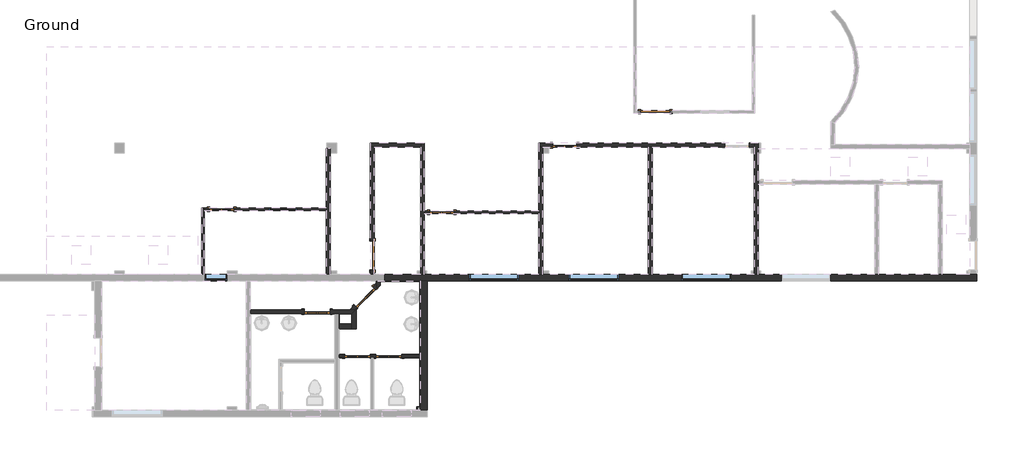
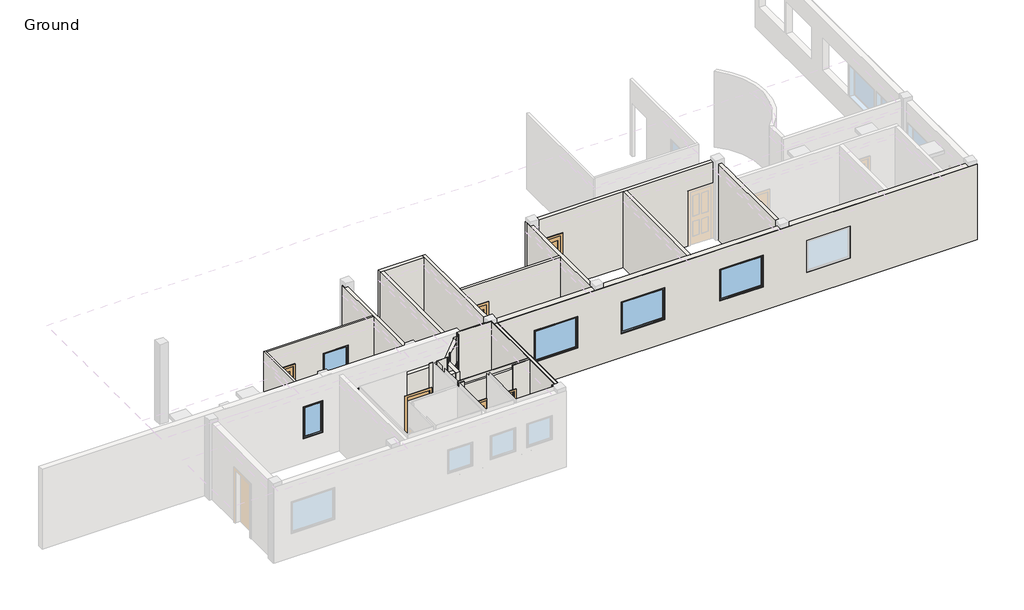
# One storey, part 2 of 4: 34 walls, 9 doors, 5 windows.
"""IFC4 building model written with IfcOpenShell, lengths in millimetres."""

from ifc_helpers import new_model, si_unit, frame, origin, origin_with_axes, place, context, project, spatial, polyline, outline, extrude, faceted_brep, transform, mapped, element, save
from components import door_43f271b1, door_e28fd1ca, door_ea126e43, door_dc1c1a0d, door_456b505c, door_238e255b, door_9f33a548, door_317ed896, window_b7da1b20, window_74e4fc61, window_a0bf6c86

model = new_model("IFC4")

# Units and contexts
model_context = context("Model", 3, world=origin())
ifc_project = project(units=[si_unit("LENGTHUNIT", "METRE", prefix="MILLI")], contexts=[model_context])

# Site, building, storey
site = spatial("IfcSite", under=ifc_project)
building = spatial("IfcBuilding", under=site)
storey = spatial("IfcBuildingStorey", under=building, Name="Ground", Elevation=0.0)

# Doors
placement = place(None, origin())
door_shape = door_43f271b1(model_context)
element("IfcDoor", 1, ObjectType="Single-Flush : 36\" x 80\" - D1", at=placement, inside=storey, context=model_context, shape_type="MappedRepresentation", body=[
    mapped(door_shape, transform((-25082.102824, 9569.42279, 0.0), x_axis=(0.0, -1.0, 0.0), y_axis=(1.0, 0.0, 0.0), z_axis=(0.0, 0.0, 1.0))),
])
door_2_shape = door_e28fd1ca(model_context)
element("IfcDoor", 2, ObjectType="Single-Flush : 36\" x 80\" - D1", at=placement, inside=storey, context=model_context, shape_type="MappedRepresentation", body=[
    mapped(door_2_shape, transform((-16141.302824, 14111.26029, 0.0), x_axis=(-0.9999999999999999, 0.0, 0.0), y_axis=(0.0, -0.9999999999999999, 0.0), z_axis=(0.0, 0.0, 1.0))),
])
door_3_shape = door_ea126e43(model_context)
element("IfcDoor", 3, ObjectType="Single-Glass 3 : 30\" x 80\" - D3", at=placement, inside=storey, context=model_context, shape_type="MappedRepresentation", body=[
    mapped(door_3_shape, transform((-22891.352824, 10934.67279, 0.0), x_axis=(-1.0, 0.0, 0.0), y_axis=(0.0, -1.0, 0.0), z_axis=(0.0, 0.0, 1.0))),
])
element("IfcDoor", 4, ObjectType="Single-Glass 3 : 30\" x 80\" - D3", at=placement, inside=storey, context=model_context, shape_type="MappedRepresentation", body=[
    mapped(door_3_shape, transform((-29843.015324, 11026.74779, 0.0), x_axis=(-1.0, 0.0, 0.0), y_axis=(0.0, -1.0, 0.0), z_axis=(0.0, 0.0, 1.0))),
])
door_4_shape = door_dc1c1a0d(model_context)
element("IfcDoor", 5, ObjectType="Single-Glass 3 : 30\" x 80\" - D3", at=placement, inside=storey, context=model_context, shape_type="MappedRepresentation", body=[
    mapped(door_4_shape, transform((-19005.152824, 13055.57279, 0.0), x_axis=(-1.0, 0.0, 0.0), y_axis=(0.0, -1.0, 0.0), z_axis=(0.0, 0.0, 1.0))),
])
door_5_shape = door_456b505c(model_context)
element("IfcDoor", 6, ObjectType="Single-Glass 3 : 32\" x 80\" - D2", at=placement, inside=storey, context=model_context, shape_type="MappedRepresentation", body=[
    mapped(door_5_shape, transform((-25552.002824, 6378.54779, 0.0), x_axis=(1.0, 0.0, 0.0), y_axis=(0.0, 1.0, 0.0), z_axis=(0.0, 0.0, 1.0))),
])
door_6_shape = door_238e255b(model_context)
element("IfcDoor", 7, ObjectType="Single-Glass 3 : 32\" x 80\" - D2", at=placement, inside=storey, context=model_context, shape_type="MappedRepresentation", body=[
    mapped(door_6_shape, transform((-25316.8739196, 8245.6266944, 0.0), x_axis=(-0.707106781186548, -0.7071067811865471, 0.0), y_axis=(0.7071067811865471, -0.707106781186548, 0.0), z_axis=(0.0, 0.0, 1.0))),
])
door_7_shape = door_9f33a548(model_context)
element("IfcDoor", 8, ObjectType="Single-Glass 3 : 32\" x 80\" - D2", at=placement, inside=storey, context=model_context, shape_type="MappedRepresentation", body=[
    mapped(door_7_shape, transform((-26822.002824, 7788.24779, 0.0), x_axis=(1.0, 0.0, 0.0), y_axis=(0.0, 1.0, 0.0), z_axis=(0.0, 0.0, 1.0))),
])
door_8_shape = door_317ed896(model_context)
element("IfcDoor", 9, ObjectType="Single-Glass 3 : 32\" x 80\" - D2", at=placement, inside=storey, context=model_context, shape_type="MappedRepresentation", body=[
    mapped(door_8_shape, transform((-24561.402824, 6378.54779, 0.0), x_axis=(-1.0, 0.0, 0.0), y_axis=(0.0, -1.0, 0.0), z_axis=(0.0, 0.0, 1.0))),
])

# Walls
element("IfcWall", 10, ObjectType="0.5\" wall tiles-4\" x 6\"", at=placement, inside=storey, context=model_context, shape_type="SweptSolid", body=[
    extrude(outline(polyline([(-26415.602824, 7724.74779), (-26275.902824, 7724.74779), (-26275.902824, 7712.04779), (-26415.602824, 7712.04779), (-26415.602824, 7724.74779)])), origin_with_axes(), (0.0, 0.0, 1.0), 3048.0),
])
element("IfcWall", 11, ObjectType="0.5\" wall tiles-4\" x 6\"", at=placement, inside=storey, context=model_context, shape_type="Brep", body=[
    faceted_brep([(-25560.375674, 7914.5674429, 0.0), (-25586.4560212, 7888.4870957, 0.0), (-25586.4560212, 7888.4870957, 2743.2), (-25586.4560212, 7888.4870957, 3048.0), (-25560.375674, 7914.5674429, 3048.0), (-25551.3954179, 7905.5871868, 0.0), (-25551.3954179, 7905.5871868, 3048.0), (-25586.4560212, 7870.5265835, 3048.0), (-25586.4560212, 7870.5265835, 0.0)], [[[0, 1, 2, 3, 4]], [[5, 6, 7, 8]], [[1, 0, 5, 8]], [[4, 3, 7, 6]], [[0, 4, 6, 5]], [[3, 2, 1, 8, 7]]]),
])
element("IfcWall", 12, ObjectType="0.5\" wall tiles-4\" x 6\"", at=placement, inside=storey, context=model_context, shape_type="Brep", body=[
    faceted_brep([(-25750.1953269, 7724.74779, 0.0), (-26136.202824, 7724.74779, 0.0), (-26136.202824, 7724.74779, 3048.0), (-25750.1953269, 7724.74779, 3048.0), (-25762.8953269, 7712.04779, 0.0), (-25762.8953269, 7712.04779, 3048.0), (-26123.502824, 7712.04779, 3048.0), (-26136.202824, 7712.04779, 3048.0), (-26136.202824, 7712.04779, 0.0), (-26123.502824, 7712.04779, 0.0)], [[[0, 1, 2, 3]], [[4, 5, 6, 7, 8, 9]], [[1, 0, 4, 9, 8]], [[3, 2, 7, 6, 5]], [[2, 1, 8, 7]], [[0, 3, 5, 4]]]),
])
element("IfcWall", 13, ObjectType="0.5\" wall tiles-4\" x 6\"", at=placement, inside=storey, context=model_context, shape_type="Brep", body=[
    faceted_brep([(-26136.202824, 7712.04779, 0.0), (-26136.202824, 7394.54779, 0.0), (-26136.202824, 7394.54779, 2743.2), (-26136.202824, 7394.54779, 3048.0), (-26136.202824, 7712.04779, 3048.0), (-26123.502824, 7712.04779, 0.0), (-26123.502824, 7712.04779, 3048.0), (-26123.502824, 7394.54779, 3048.0), (-26123.502824, 7394.54779, 0.0)], [[[0, 1, 2, 3, 4]], [[5, 6, 7, 8]], [[1, 0, 5, 8]], [[4, 3, 7, 6]], [[0, 4, 6, 5]], [[3, 2, 1, 8, 7]]]),
])
element("IfcWall", 14, ObjectType="0.5\" wall tiles-4\" x 6\"", at=placement, inside=storey, context=model_context, shape_type="Brep", body=[
    faceted_brep([(-25145.7268406, 6418.23529, 2032.0), (-25145.7268406, 6418.23529, 0.0), (-24967.6788075, 6418.23529, 0.0), (-24967.6788075, 6418.23529, 2032.0), (-24154.8788075, 6418.23529, 2032.0), (-24154.8788075, 6418.23529, 0.0), (-23566.040324, 6418.23529, 0.0), (-23566.040324, 6418.23529, 2895.6), (-23566.040324, 6418.23529, 3048.0), (-26136.202824, 6418.23529, 3048.0), (-26136.202824, 6418.23529, 2895.6), (-26136.202824, 6418.23529, 0.0), (-25958.5268406, 6418.23529, 0.0), (-25958.5268406, 6418.23529, 2032.0), (-24967.6788075, 6430.93529, 0.0), (-25145.7268406, 6430.93529, 0.0), (-25145.7268406, 6430.93529, 2032.0), (-25958.5268406, 6430.93529, 2032.0), (-25958.5268406, 6430.93529, 0.0), (-26123.502824, 6430.93529, 0.0), (-26136.202824, 6430.93529, 0.0), (-26136.202824, 6430.93529, 3048.0), (-26123.502824, 6430.93529, 3048.0), (-23578.740324, 6430.93529, 3048.0), (-23566.040324, 6430.93529, 3048.0), (-23566.040324, 6430.93529, 0.0), (-23578.740324, 6430.93529, 0.0), (-24154.8788075, 6430.93529, 0.0), (-24154.8788075, 6430.93529, 2032.0), (-24967.6788075, 6430.93529, 2032.0)], [[[0, 1, 2, 3, 4, 5, 6, 7, 8, 9, 10, 11, 12, 13]], [[14, 15, 16, 17, 18, 19, 20, 21, 22, 23, 24, 25, 26, 27, 28, 29]], [[2, 1, 15, 14]], [[27, 26, 25, 6, 5]], [[12, 11, 20, 19, 18]], [[9, 8, 24, 23, 22, 21]], [[11, 10, 9, 21, 20]], [[8, 7, 6, 25, 24]], [[3, 2, 14, 29]], [[4, 3, 29, 28]], [[5, 4, 28, 27]], [[16, 15, 1, 0]], [[17, 16, 0, 13]], [[18, 17, 13, 12]]]),
])
element("IfcWall", 15, ObjectType="0.5\" wall tiles-4\" x 6\"", at=placement, inside=storey, context=model_context, shape_type="Brep", body=[
    faceted_brep([(-25738.8560212, 7736.0870957, 0.0), (-25750.1953269, 7724.74779, 0.0), (-25762.8953269, 7712.04779, 0.0), (-25762.8953269, 7712.04779, 3048.0), (-25750.1953269, 7724.74779, 3048.0), (-25738.8560212, 7736.0870957, 3048.0), (-25738.8560212, 7736.0870957, 2743.2), (-25738.8560212, 7718.1265835, 0.0), (-25738.8560212, 7718.1265835, 3048.0), (-25744.9348146, 7712.04779, 3048.0), (-25744.9348146, 7712.04779, 0.0)], [[[0, 1, 2, 3, 4, 5, 6]], [[7, 8, 9, 10]], [[2, 1, 0, 7, 10]], [[5, 4, 3, 9, 8]], [[3, 2, 10, 9]], [[0, 6, 5, 8, 7]]]),
])
element("IfcWall", 16, ObjectType="0.5\" wall tiles-4\" x 6\"", at=placement, inside=storey, context=model_context, shape_type="Brep", body=[
    faceted_brep([(-23566.040324, 6430.93529, 0.0), (-23566.040324, 8753.44779, 0.0), (-23566.040324, 8753.44779, 3048.0), (-23566.040324, 6430.93529, 3048.0), (-23578.740324, 6430.93529, 0.0), (-23578.740324, 6430.93529, 3048.0), (-23578.740324, 8740.74779, 3048.0), (-23578.740324, 8753.44779, 3048.0), (-23578.740324, 8753.44779, 0.0), (-23578.740324, 8740.74779, 0.0)], [[[0, 1, 2, 3]], [[4, 5, 6, 7, 8, 9]], [[1, 0, 4, 9, 8]], [[3, 2, 7, 6, 5]], [[2, 1, 8, 7]], [[0, 3, 5, 4]]]),
])
element("IfcWall", 17, ObjectType="0.5\" wall tiles-4\" x 6\"", at=placement, inside=storey, context=model_context, shape_type="Brep", body=[
    faceted_brep([(-23578.740324, 8753.44779, 0.0), (-24836.040324, 8753.44779, 0.0), (-24836.040324, 8753.44779, 3048.0), (-23578.740324, 8753.44779, 3048.0), (-23578.740324, 8740.74779, 0.0), (-23578.740324, 8740.74779, 3048.0), (-24823.340324, 8740.74779, 3048.0), (-24836.040324, 8740.74779, 3048.0), (-24836.040324, 8740.74779, 0.0), (-24823.340324, 8740.74779, 0.0)], [[[0, 1, 2, 3]], [[4, 5, 6, 7, 8, 9]], [[1, 0, 4, 9, 8]], [[3, 2, 7, 6, 5]], [[2, 1, 8, 7]], [[0, 3, 5, 4]]]),
])
element("IfcWall", 18, ObjectType="0.5\" wall tiles-4\" x 6\"", at=placement, inside=storey, context=model_context, shape_type="Brep", body=[
    faceted_brep([(-24836.040324, 8740.74779, 0.0), (-24836.040324, 8638.9027929, 0.0), (-24836.040324, 8620.9422806, 0.0), (-24836.040324, 8620.9422806, 3048.0), (-24836.040324, 8638.9027929, 3048.0), (-24836.040324, 8740.74779, 3048.0), (-24823.340324, 8740.74779, 0.0), (-24823.340324, 8740.74779, 3048.0), (-24823.340324, 8633.6422806, 3048.0), (-24823.340324, 8633.6422806, 0.0)], [[[0, 1, 2, 3, 4, 5]], [[6, 7, 8, 9]], [[2, 1, 0, 6, 9]], [[5, 4, 3, 8, 7]], [[3, 2, 9, 8]], [[0, 5, 7, 6]]]),
])
element("IfcWall", 19, ObjectType="0.5\" wall tiles-4\" x 6\"", at=placement, inside=storey, context=model_context, shape_type="SweptSolid", body=[
    extrude(outline(polyline([(-24984.7299377, 8490.2131792), (-24836.040324, 8638.9027929), (-24836.040324, 8620.9422806), (-24975.7496815, 8481.2329231), (-24984.7299377, 8490.2131792)])), origin_with_axes(), (0.0, 0.0, 1.0), 3048.0),
])
element("IfcWall", 20, ObjectType="0.5\" wall tiles-4\" x 6\"", at=placement, inside=storey, context=model_context, shape_type="Brep", body=[
    faceted_brep([(-25958.5268406, 6338.86029, 0.0), (-26136.202824, 6338.86029, 0.0), (-26136.202824, 6338.86029, 3048.0), (-25958.5268406, 6338.86029, 3048.0), (-25958.5268406, 6326.16029, 0.0), (-25958.5268406, 6326.16029, 3048.0), (-26123.502824, 6326.16029, 3048.0), (-26136.202824, 6326.16029, 3048.0), (-26136.202824, 6326.16029, 0.0), (-26123.502824, 6326.16029, 0.0)], [[[0, 1, 2, 3]], [[4, 5, 6, 7, 8, 9]], [[1, 0, 4, 9, 8]], [[3, 2, 7, 6, 5]], [[0, 3, 5, 4]], [[2, 1, 8, 7]]]),
])
element("IfcWall", 21, ObjectType="0.5\" wall tiles-4\" x 6\"", at=placement, inside=storey, context=model_context, shape_type="Brep", body=[
    faceted_brep([(-23664.465324, 4687.86029, 0.0), (-23664.465324, 4773.58529, 0.0), (-23664.465324, 4786.28529, 0.0), (-23664.465324, 4786.28529, 3048.0), (-23664.465324, 4773.58529, 3048.0), (-23664.465324, 4687.86029, 3048.0), (-23677.165324, 4687.86029, 0.0), (-23677.165324, 4687.86029, 3048.0), (-23677.165324, 4786.28529, 3048.0), (-23677.165324, 4786.28529, 0.0)], [[[0, 1, 2, 3, 4, 5]], [[6, 7, 8, 9]], [[2, 1, 0, 6, 9]], [[5, 4, 3, 8, 7]], [[3, 2, 9, 8]], [[0, 5, 7, 6]]]),
])
element("IfcWall", 22, ObjectType="0.5\" wall tiles-4\" x 6\"", at=placement, inside=storey, context=model_context, shape_type="Brep", body=[
    faceted_brep([(-23664.465324, 4773.58529, 0.0), (-23566.040324, 4773.58529, 0.0), (-23566.040324, 4773.58529, 3048.0), (-23664.465324, 4773.58529, 3048.0), (-23664.465324, 4786.28529, 0.0), (-23664.465324, 4786.28529, 3048.0), (-23578.740324, 4786.28529, 3048.0), (-23566.040324, 4786.28529, 3048.0), (-23566.040324, 4786.28529, 0.0), (-23578.740324, 4786.28529, 0.0)], [[[0, 1, 2, 3]], [[4, 5, 6, 7, 8, 9]], [[1, 0, 4, 9, 8]], [[3, 2, 7, 6, 5]], [[2, 1, 8, 7]], [[0, 3, 5, 4]]]),
])
element("IfcWall", 23, ObjectType="0.5\" wall tiles-4\" x 6\"", at=placement, inside=storey, context=model_context, shape_type="Brep", body=[
    faceted_brep([(-23566.040324, 4786.28529, 0.0), (-23566.040324, 6338.86029, 0.0), (-23566.040324, 6338.86029, 3048.0), (-23566.040324, 4786.28529, 3048.0), (-23578.740324, 4786.28529, 0.0), (-23578.740324, 4786.28529, 3048.0), (-23578.740324, 6326.16029, 3048.0), (-23578.740324, 6338.86029, 3048.0), (-23578.740324, 6338.86029, 0.0), (-23578.740324, 6326.16029, 0.0)], [[[0, 1, 2, 3]], [[4, 5, 6, 7, 8, 9]], [[1, 0, 4, 9, 8]], [[3, 2, 7, 6, 5]], [[2, 1, 8, 7]], [[0, 3, 5, 4]]]),
])
element("IfcWall", 24, ObjectType="0.5\" wall tiles-4\" x 6\"", at=placement, inside=storey, context=model_context, shape_type="SweptSolid", body=[
    extrude(outline(polyline([(-24204.3928001, 6338.86029), (-23578.740324, 6338.86029), (-23578.740324, 6326.16029), (-24204.3928001, 6326.16029), (-24204.3928001, 6338.86029)])), origin_with_axes(), (0.0, 0.0, 1.0), 3048.0),
])
element("IfcWall", 25, ObjectType="Generic - 6\"", at=placement, inside=storey, context=model_context, shape_type="Brep", body=[
    faceted_brep([(-25738.8560212, 7736.0870957, 0.0), (-25738.8560212, 7718.1265835, 0.0), (-25738.8560212, 7394.54779, 0.0), (-25738.8560212, 7242.14779, 0.0), (-25738.8560212, 7242.14779, 2743.2), (-25738.8560212, 7394.54779, 2743.2), (-25738.8560212, 7736.0870957, 2743.2), (-25586.4560212, 7888.4870957, 0.0), (-25586.4560212, 7888.4870957, 2743.2), (-25586.4560212, 7242.14779, 2743.2), (-25586.4560212, 7242.14779, 0.0), (-25586.4560212, 7870.5265835, 0.0), (-25623.1953269, 7851.74779, 0.0)], [[[0, 1, 2, 3, 4, 5, 6]], [[7, 8, 9, 10, 11]], [[3, 2, 1, 0, 12, 7, 11, 10]], [[6, 5, 4, 9, 8]], [[4, 3, 10, 9]], [[0, 6, 8, 7, 12]]]),
])
element("IfcWall", 26, ObjectType="Generic - 6\"", at=placement, inside=storey, context=model_context, shape_type="Brep", body=[
    faceted_brep([(-25738.8560212, 7394.54779, 0.0), (-26123.502824, 7394.54779, 0.0), (-26136.202824, 7394.54779, 0.0), (-26136.202824, 7394.54779, 2743.2), (-25738.8560212, 7394.54779, 2743.2), (-25738.8560212, 7242.14779, 0.0), (-25738.8560212, 7242.14779, 2743.2), (-26136.202824, 7242.14779, 2743.2), (-26136.202824, 7242.14779, 0.0), (-26123.502824, 7242.14779, 0.0)], [[[0, 1, 2, 3, 4]], [[5, 6, 7, 8, 9]], [[2, 1, 0, 5, 9, 8]], [[4, 3, 7, 6]], [[3, 2, 8, 7]], [[0, 4, 6, 5]]]),
])
element("IfcWall", 27, ObjectType="Generic - 8\" Masonry existing", at=placement, inside=storey, context=model_context, shape_type="Brep", body=[
    faceted_brep([(-24701.102824, 8753.44779, 0.0), (-23566.040324, 8753.44779, 0.0), (-23346.965324, 8753.44779, 0.0), (-5986.065324, 8753.44779, 0.0), (-5986.065324, 8753.44779, 2895.6), (-5998.765324, 8753.44779, 2895.6), (-23346.965324, 8753.44779, 2895.6), (-23566.040324, 8753.44779, 2895.6), (-24701.102824, 8753.44779, 2895.6), (-22021.402824, 8753.44779, 2133.6), (-20446.602824, 8753.44779, 2133.6), (-20446.602824, 8753.44779, 914.4), (-22021.402824, 8753.44779, 914.4), (-18871.802824, 8753.44779, 2133.6), (-17297.002824, 8753.44779, 2133.6), (-17297.002824, 8753.44779, 914.4), (-18871.802824, 8753.44779, 914.4), (-12166.202824, 8753.44779, 2133.6), (-10591.402824, 8753.44779, 2133.6), (-10591.402824, 8753.44779, 914.4), (-12166.202824, 8753.44779, 914.4), (-15315.802824, 8753.44779, 2133.6), (-13741.002824, 8753.44779, 2133.6), (-13741.002824, 8753.44779, 914.4), (-15315.802824, 8753.44779, 914.4), (-24701.102824, 8972.52279, 0.0), (-24701.102824, 8972.52279, 2895.6), (-23556.515324, 8972.52279, 2895.6), (-23432.690324, 8972.52279, 2895.6), (-19827.477824, 8972.52279, 2895.6), (-19703.652824, 8972.52279, 2895.6), (-16355.615324, 8972.52279, 2895.6), (-16231.790324, 8972.52279, 2895.6), (-13015.515324, 8972.52279, 2895.6), (-12891.690324, 8972.52279, 2895.6), (-9207.102824, 8972.52279, 2895.6), (-9083.277824, 8972.52279, 2895.6), (-7195.740324, 8972.52279, 2895.6), (-7071.915324, 8972.52279, 2895.6), (-6205.140324, 8972.52279, 2895.6), (-5998.765324, 8972.52279, 2895.6), (-5986.065324, 8972.52279, 2895.6), (-5986.065324, 8972.52279, 0.0), (-6205.140324, 8972.52279, 0.0), (-7071.915324, 8972.52279, 0.0), (-7195.740324, 8972.52279, 0.0), (-9083.277824, 8972.52279, 0.0), (-9207.102824, 8972.52279, 0.0), (-12891.690324, 8972.52279, 0.0), (-13015.515324, 8972.52279, 0.0), (-16231.790324, 8972.52279, 0.0), (-16355.615324, 8972.52279, 0.0), (-19703.652824, 8972.52279, 0.0), (-19827.477824, 8972.52279, 0.0), (-23432.690324, 8972.52279, 0.0), (-23556.515324, 8972.52279, 0.0), (-22021.402824, 8972.52279, 2133.6), (-22021.402824, 8972.52279, 914.4), (-20446.602824, 8972.52279, 914.4), (-20446.602824, 8972.52279, 2133.6), (-18871.802824, 8972.52279, 2133.6), (-18871.802824, 8972.52279, 914.4), (-17297.002824, 8972.52279, 914.4), (-17297.002824, 8972.52279, 2133.6), (-12166.202824, 8972.52279, 2133.6), (-12166.202824, 8972.52279, 914.4), (-10591.402824, 8972.52279, 914.4), (-10591.402824, 8972.52279, 2133.6), (-15315.802824, 8972.52279, 2133.6), (-15315.802824, 8972.52279, 914.4), (-13741.002824, 8972.52279, 914.4), (-13741.002824, 8972.52279, 2133.6), (-24701.102824, 8766.14779, 2895.6), (-5986.065324, 8766.14779, 2895.6), (-5998.765324, 8766.14779, 2895.6), (-23359.665324, 8766.14779, 2895.6)], [[[0, 1, 2, 3, 4, 5, 6, 7, 8], [9, 10, 11, 12], [13, 14, 15, 16], [17, 18, 19, 20], [21, 22, 23, 24]], [[25, 26, 27, 28, 29, 30, 31, 32, 33, 34, 35, 36, 37, 38, 39, 40, 41, 42, 43, 44, 45, 46, 47, 48, 49, 50, 51, 52, 53, 54, 55], [56, 57, 58, 59], [60, 61, 62, 63], [64, 65, 66, 67], [68, 69, 70, 71]], [[3, 2, 1, 0, 25, 55, 54, 53, 52, 51, 50, 49, 48, 47, 46, 45, 44, 43, 42]], [[0, 8, 72, 26, 25]], [[4, 3, 42, 41, 73]], [[8, 7, 6, 5, 74, 75, 72]], [[73, 41, 40, 74]], [[5, 4, 73, 74]], [[74, 40, 39, 38, 37, 36, 35, 34, 33, 32, 31, 30, 29, 28, 27, 26, 72, 75]], [[57, 56, 9, 12]], [[58, 57, 12, 11]], [[59, 58, 11, 10]], [[56, 59, 10, 9]], [[61, 60, 13, 16]], [[62, 61, 16, 15]], [[63, 62, 15, 14]], [[60, 63, 14, 13]], [[65, 64, 17, 20]], [[66, 65, 20, 19]], [[67, 66, 19, 18]], [[64, 67, 18, 17]], [[69, 68, 21, 24]], [[70, 69, 24, 23]], [[71, 70, 23, 22]], [[68, 71, 22, 21]]]),
])
element("IfcWall", 28, ObjectType="Generic - 8\" Masonry existing", at=placement, inside=storey, context=model_context, shape_type="Brep", body=[
    faceted_brep([(-23566.040324, 8753.44779, 0.0), (-23566.040324, 6418.23529, 0.0), (-23566.040324, 6338.86029, 0.0), (-23566.040324, 4675.16029, 0.0), (-23566.040324, 4675.16029, 2895.6), (-23566.040324, 6338.86029, 2895.6), (-23566.040324, 6418.23529, 2895.6), (-23566.040324, 8753.44779, 2895.6), (-23346.965324, 8753.44779, 0.0), (-23346.965324, 8753.44779, 2895.6), (-23346.965324, 4675.16029, 2895.6), (-23346.965324, 4675.16029, 0.0), (-23359.665324, 4675.16029, 2895.6), (-23359.665324, 8753.44779, 2895.6)], [[[0, 1, 2, 3, 4, 5, 6, 7]], [[8, 9, 10, 11]], [[3, 2, 1, 0, 8, 11]], [[4, 3, 11, 10, 12]], [[0, 7, 13, 9, 8]], [[12, 10, 9, 13]], [[7, 6, 5, 4, 12, 13]]]),
])
element("IfcWall", 29, ObjectType="Interior - 3 1/8\" Partition (1-hr)", at=placement, inside=storey, context=model_context, shape_type="Brep", body=[
    faceted_brep([(-30476.427824, 11066.43529, 0.0), (-30476.427824, 8972.52279, 0.0), (-30476.427824, 8972.52279, 2895.6), (-30476.427824, 11066.43529, 2895.6), (-30397.052824, 11066.43529, 0.0), (-30397.052824, 11066.43529, 2895.6), (-30397.052824, 10987.06029, 2895.6), (-30397.052824, 8972.52279, 2895.6), (-30397.052824, 8972.52279, 0.0), (-30397.052824, 10987.06029, 0.0)], [[[0, 1, 2, 3]], [[4, 5, 6, 7, 8, 9]], [[1, 0, 4, 9, 8]], [[3, 2, 7, 6, 5]], [[0, 3, 5, 4]], [[2, 1, 8, 7]]]),
])
element("IfcWall", 30, ObjectType="Interior - 3 1/8\" Partition (1-hr)", at=placement, inside=storey, context=model_context, shape_type="SweptSolid", body=[
    extrude(outline(polyline([(0.0, -23432.690324), (0.0, -23272.2288075), (2032.0, -23272.2288075), (2032.0, -22510.2288075), (0.0, -22510.2288075), (0.0, -19827.477824), (2895.6, -19827.477824), (2895.6, -23432.690324), (0.0, -23432.690324)])), frame((0.0, 10894.98529, 0.0), z_axis=(0.0, 1.0, 0.0), x_axis=(0.0, 0.0, 1.0)), (0.0, 0.0, 1.0), 79.375),
])
element("IfcWall", 31, ObjectType="Interior - 3 1/8\" Partition (1-hr)", at=placement, inside=storey, context=model_context, shape_type="SweptSolid", body=[
    extrude(outline(polyline([(0.0, -30397.052824), (0.0, -30223.8913075), (2032.0, -30223.8913075), (2032.0, -29461.8913075), (0.0, -29461.8913075), (0.0, -26533.077824), (2895.6, -26533.077824), (2895.6, -30397.052824), (0.0, -30397.052824)]), holes=[polyline([(2133.6, -28369.815324), (2133.6, -27455.415324), (914.4, -27455.415324), (914.4, -28369.815324), (2133.6, -28369.815324)])]), frame((0.0, 10987.06029, 0.0), z_axis=(0.0, 1.0, 0.0), x_axis=(0.0, 0.0, 1.0)), (0.0, 0.0, 1.0), 79.375),
])
element("IfcWall", 32, ObjectType="Interior - 3 1/8\" Partition (1-hr)", at=placement, inside=storey, context=model_context, shape_type="Brep", body=[
    faceted_brep([(-25145.7268406, 6338.86029, 2032.0), (-25145.7268406, 6338.86029, 0.0), (-25123.377824, 6338.86029, 0.0), (-25044.002824, 6338.86029, 0.0), (-24967.6788075, 6338.86029, 0.0), (-24967.6788075, 6338.86029, 2032.0), (-24154.8788075, 6338.86029, 2032.0), (-24154.8788075, 6338.86029, 0.0), (-23566.040324, 6338.86029, 0.0), (-23566.040324, 6338.86029, 2895.6), (-25044.002824, 6338.86029, 2895.6), (-25123.377824, 6338.86029, 2895.6), (-26136.202824, 6338.86029, 2895.6), (-26136.202824, 6338.86029, 0.0), (-25958.5268406, 6338.86029, 0.0), (-25958.5268406, 6338.86029, 2032.0), (-24967.6788075, 6418.23529, 0.0), (-25145.7268406, 6418.23529, 0.0), (-25145.7268406, 6418.23529, 2032.0), (-25958.5268406, 6418.23529, 2032.0), (-25958.5268406, 6418.23529, 0.0), (-26136.202824, 6418.23529, 0.0), (-26136.202824, 6418.23529, 2895.6), (-23566.040324, 6418.23529, 2895.6), (-23566.040324, 6418.23529, 0.0), (-24154.8788075, 6418.23529, 0.0), (-24154.8788075, 6418.23529, 2032.0), (-24967.6788075, 6418.23529, 2032.0)], [[[0, 1, 2, 3, 4, 5, 6, 7, 8, 9, 10, 11, 12, 13, 14, 15]], [[16, 17, 18, 19, 20, 21, 22, 23, 24, 25, 26, 27]], [[4, 3, 2, 1, 17, 16]], [[25, 24, 8, 7]], [[14, 13, 21, 20]], [[12, 11, 10, 9, 23, 22]], [[9, 8, 24, 23]], [[13, 12, 22, 21]], [[5, 4, 16, 27]], [[6, 5, 27, 26]], [[7, 6, 26, 25]], [[18, 17, 1, 0]], [[19, 18, 0, 15]], [[20, 19, 15, 14]]]),
])
element("IfcWall", 33, ObjectType="Interior - 5 1/2\" Partition (1-hr)", at=placement, inside=storey, context=model_context, shape_type="Brep", body=[
    faceted_brep([(-12891.690324, 8972.52279, 0.0), (-12891.690324, 11818.91029, 0.0), (-12891.690324, 11942.73529, 0.0), (-12891.690324, 13117.48529, 0.0), (-12891.690324, 13117.48529, 2895.6), (-12891.690324, 11942.73529, 2895.6), (-12891.690324, 11818.91029, 2895.6), (-12891.690324, 8972.52279, 2895.6), (-13015.515324, 8972.52279, 0.0), (-13015.515324, 8972.52279, 2895.6), (-13015.515324, 12993.66029, 2895.6), (-13015.515324, 13117.48529, 2895.6), (-13015.515324, 13117.48529, 0.0), (-13015.515324, 12993.66029, 0.0)], [[[0, 1, 2, 3, 4, 5, 6, 7]], [[8, 9, 10, 11, 12, 13]], [[3, 2, 1, 0, 8, 13, 12]], [[7, 6, 5, 4, 11, 10, 9]], [[4, 3, 12, 11]], [[0, 7, 9, 8]]]),
])
element("IfcWall", 34, ObjectType="Interior - 5 1/2\" Partition (1-hr)", at=placement, inside=storey, context=model_context, shape_type="Brep", body=[
    faceted_brep([(-13015.515324, 13117.48529, 0.0), (-13175.9768406, 13117.48529, 0.0), (-13175.9768406, 13117.48529, 2032.0), (-13937.9768406, 13117.48529, 2032.0), (-13937.9768406, 13117.48529, 0.0), (-18624.0288075, 13117.48529, 0.0), (-18624.0288075, 13117.48529, 2032.0), (-19386.0288075, 13117.48529, 2032.0), (-19386.0288075, 13117.48529, 0.0), (-19827.477824, 13117.48529, 0.0), (-19827.477824, 13117.48529, 2895.6), (-13015.515324, 13117.48529, 2895.6), (-13175.9768406, 12993.66029, 2032.0), (-13175.9768406, 12993.66029, 0.0), (-13015.515324, 12993.66029, 0.0), (-13015.515324, 12993.66029, 2895.6), (-16231.790324, 12993.66029, 2895.6), (-16355.615324, 12993.66029, 2895.6), (-19703.652824, 12993.66029, 2895.6), (-19827.477824, 12993.66029, 2895.6), (-19827.477824, 12993.66029, 0.0), (-19703.652824, 12993.66029, 0.0), (-19386.0288075, 12993.66029, 0.0), (-19386.0288075, 12993.66029, 2032.0), (-18624.0288075, 12993.66029, 2032.0), (-18624.0288075, 12993.66029, 0.0), (-16355.615324, 12993.66029, 0.0), (-16231.790324, 12993.66029, 0.0), (-13937.9768406, 12993.66029, 0.0), (-13937.9768406, 12993.66029, 2032.0)], [[[0, 1, 2, 3, 4, 5, 6, 7, 8, 9, 10, 11]], [[12, 13, 14, 15, 16, 17, 18, 19, 20, 21, 22, 23, 24, 25, 26, 27, 28, 29]], [[20, 9, 8, 22, 21]], [[14, 13, 1, 0]], [[28, 27, 26, 25, 5, 4]], [[11, 10, 19, 18, 17, 16, 15]], [[10, 9, 20, 19]], [[0, 11, 15, 14]], [[7, 23, 22, 8]], [[23, 7, 6, 24]], [[24, 6, 5, 25]], [[2, 1, 13, 12]], [[3, 2, 12, 29]], [[4, 3, 29, 28]]]),
])
element("IfcWall", 35, ObjectType="Interior - 5 1/2\" Partition (1-hr)", at=placement, inside=storey, context=model_context, shape_type="SweptSolid", body=[
    extrude(outline(polyline([(-16355.615324, 8972.52279), (-16355.615324, 12993.66029), (-16231.790324, 12993.66029), (-16231.790324, 8972.52279), (-16355.615324, 8972.52279)])), origin_with_axes(), (0.0, 0.0, 1.0), 2895.6),
])
element("IfcWall", 36, ObjectType="Interior - 5 1/2\" Partition (1-hr)", at=placement, inside=storey, context=model_context, shape_type="Brep", body=[
    faceted_brep([(-19703.652824, 8972.52279, 0.0), (-19703.652824, 12993.66029, 0.0), (-19703.652824, 12993.66029, 2895.6), (-19703.652824, 8972.52279, 2895.6), (-19827.477824, 8972.52279, 0.0), (-19827.477824, 8972.52279, 2895.6), (-19827.477824, 10894.98529, 2895.6), (-19827.477824, 10974.36029, 2895.6), (-19827.477824, 12993.66029, 2895.6), (-19827.477824, 12993.66029, 0.0), (-19827.477824, 10974.36029, 0.0), (-19827.477824, 10894.98529, 0.0)], [[[0, 1, 2, 3]], [[4, 5, 6, 7, 8, 9, 10, 11]], [[1, 0, 4, 11, 10, 9]], [[3, 2, 8, 7, 6, 5]], [[2, 1, 9, 8]], [[0, 3, 5, 4]]]),
])
element("IfcWall", 37, ObjectType="Interior - 5 1/2\" Partition (1-hr)", at=placement, inside=storey, context=model_context, shape_type="Brep", body=[
    faceted_brep([(-23556.515324, 13117.48529, 0.0), (-23556.515324, 12993.66029, 0.0), (-23556.515324, 8972.52279, 0.0), (-23556.515324, 8972.52279, 2895.6), (-23556.515324, 12993.66029, 2895.6), (-23556.515324, 13117.48529, 2895.6), (-23432.690324, 13117.48529, 0.0), (-23432.690324, 13117.48529, 2895.6), (-23432.690324, 10974.36029, 2895.6), (-23432.690324, 10894.98529, 2895.6), (-23432.690324, 8972.52279, 2895.6), (-23432.690324, 8972.52279, 0.0), (-23432.690324, 10894.98529, 0.0), (-23432.690324, 10974.36029, 0.0)], [[[0, 1, 2, 3, 4, 5]], [[6, 7, 8, 9, 10, 11, 12, 13]], [[2, 1, 0, 6, 13, 12, 11]], [[5, 4, 3, 10, 9, 8, 7]], [[0, 5, 7, 6]], [[3, 2, 11, 10]]]),
])
element("IfcWall", 38, ObjectType="Interior - 5 1/2\" Partition (1-hr)", at=placement, inside=storey, context=model_context, shape_type="Brep", body=[
    faceted_brep([(-26533.077824, 12947.62279, 0.0), (-26533.077824, 11066.43529, 0.0), (-26533.077824, 10987.06029, 0.0), (-26533.077824, 8972.52279, 0.0), (-26533.077824, 8972.52279, 2895.6), (-26533.077824, 10987.06029, 2895.6), (-26533.077824, 11066.43529, 2895.6), (-26533.077824, 12947.62279, 2895.6), (-26409.252824, 12947.62279, 0.0), (-26409.252824, 12947.62279, 2895.6), (-26409.252824, 8972.52279, 2895.6), (-26409.252824, 8972.52279, 0.0)], [[[0, 1, 2, 3, 4, 5, 6, 7]], [[8, 9, 10, 11]], [[3, 2, 1, 0, 8, 11]], [[7, 6, 5, 4, 10, 9]], [[0, 7, 9, 8]], [[4, 3, 11, 10]]]),
])
element("IfcWall", 39, ObjectType="Interior - 5 1/2\" Partition (1-hr)", at=placement, inside=storey, context=model_context, shape_type="Brep", body=[
    faceted_brep([(-23556.515324, 13117.48529, 0.0), (-25144.015324, 13117.48529, 0.0), (-25144.015324, 13117.48529, 2895.6), (-23556.515324, 13117.48529, 2895.6), (-23556.515324, 12993.66029, 0.0), (-23556.515324, 12993.66029, 2895.6), (-25020.190324, 12993.66029, 2895.6), (-25144.015324, 12993.66029, 2895.6), (-25144.015324, 12993.66029, 0.0), (-25020.190324, 12993.66029, 0.0)], [[[0, 1, 2, 3]], [[4, 5, 6, 7, 8, 9]], [[1, 0, 4, 9, 8]], [[3, 2, 7, 6, 5]], [[2, 1, 8, 7]], [[0, 3, 5, 4]]]),
])
element("IfcWall", 40, ObjectType="Interior - 5 1/2\" Partition (1-hr)", at=placement, inside=storey, context=model_context, shape_type="SweptSolid", body=[
    extrude(outline(polyline([(9112.22279, 2032.0), (9112.22279, 0.0), (8972.52279, 0.0), (8972.52279, 2895.6), (12993.66029, 2895.6), (12993.66029, 0.0), (10026.62279, 0.0), (10026.62279, 2032.0), (9112.22279, 2032.0)])), frame((-25144.015324, 0.0, 0.0), z_axis=(1.0, 0.0, 0.0), x_axis=(0.0, 1.0, 0.0)), (0.0, 0.0, 1.0), 123.825),
])
element("IfcWall", 41, ObjectType="Interior - 5 1/2\" Partition (1-hr)", at=placement, inside=storey, context=model_context, shape_type="Brep", body=[
    faceted_brep([(-24959.865324, 8753.44779, 0.0), (-24959.865324, 8690.1927872, 0.0), (-24959.865324, 8515.0777929, 0.0), (-24959.865324, 8515.0777929, 2895.6), (-24959.865324, 8690.1927872, 2895.6), (-24959.865324, 8753.44779, 2895.6), (-24836.040324, 8753.44779, 0.0), (-24836.040324, 8753.44779, 2895.6), (-24836.040324, 8638.9027929, 2895.6), (-24836.040324, 8638.9027929, 0.0)], [[[0, 1, 2, 3, 4, 5]], [[6, 7, 8, 9]], [[2, 1, 0, 6, 9]], [[5, 4, 3, 8, 7]], [[3, 2, 9, 8]], [[0, 5, 7, 6]]]),
])
element("IfcWall", 42, ObjectType="Interior - 5 1/2\" Partition (1-hr)", at=placement, inside=storey, context=model_context, shape_type="Brep", body=[
    faceted_brep([(-25798.3103212, 7851.74779, 2895.6), (-24959.865324, 8690.1927872, 2895.6), (-24959.865324, 8690.1927872, 0.0), (-25073.1967794, 8576.8613318, 0.0), (-25073.1967794, 8576.8613318, 2032.0), (-25647.9331712, 8002.1249401, 2032.0), (-25647.9331712, 8002.1249401, 0.0), (-25798.3103212, 7851.74779, 0.0), (-24959.865324, 8515.0777929, 2895.6), (-25623.1953269, 7851.74779, 2895.6), (-25623.1953269, 7851.74779, 0.0), (-25586.4560212, 7888.4870957, 0.0), (-25560.375674, 7914.5674429, 0.0), (-25560.375674, 7914.5674429, 2032.0), (-24985.6392823, 8489.3038346, 2032.0), (-24985.6392823, 8489.3038346, 0.0), (-24959.865324, 8515.0777929, 0.0)], [[[0, 1, 2, 3, 4, 5, 6, 7]], [[8, 9, 10, 11, 12, 13, 14, 15, 16]], [[2, 16, 15, 3]], [[10, 7, 6, 12, 11]], [[1, 0, 9, 8]], [[2, 1, 8, 16]], [[0, 7, 10, 9]], [[5, 13, 12, 6]], [[13, 5, 4, 14]], [[14, 4, 3, 15]]]),
])
element("IfcWall", 43, ObjectType="Interior - 5\" Partition (2-hr)", at=placement, inside=storey, context=model_context, shape_type="Brep", body=[
    faceted_brep([(-26415.7268406, 7724.74779, 2032.0), (-26415.7268406, 7724.74779, 0.0), (-26263.202824, 7724.74779, 0.0), (-26136.202824, 7724.74779, 0.0), (-25750.1953269, 7724.74779, 0.0), (-25750.1953269, 7724.74779, 2895.6), (-26136.202824, 7724.74779, 2895.6), (-26263.202824, 7724.74779, 2895.6), (-28941.315324, 7724.74779, 2895.6), (-28941.315324, 7724.74779, 0.0), (-27228.5268406, 7724.74779, 0.0), (-27228.5268406, 7724.74779, 2032.0), (-25623.1953269, 7851.74779, 0.0), (-25798.3103212, 7851.74779, 0.0), (-26415.7268406, 7851.74779, 0.0), (-26415.7268406, 7851.74779, 2032.0), (-27228.5268406, 7851.74779, 2032.0), (-27228.5268406, 7851.74779, 0.0), (-28941.315324, 7851.74779, 0.0), (-28941.315324, 7851.74779, 2032.0), (-28941.315324, 7851.74779, 2895.6), (-25798.3103212, 7851.74779, 2895.6), (-25623.1953269, 7851.74779, 2895.6)], [[[0, 1, 2, 3, 4, 5, 6, 7, 8, 9, 10, 11]], [[12, 13, 14, 15, 16, 17, 18, 19, 20, 21, 22]], [[4, 3, 2, 1, 14, 13, 12]], [[10, 9, 18, 17]], [[8, 7, 6, 5, 22, 21, 20]], [[5, 4, 12, 22]], [[9, 8, 20, 19, 18]], [[15, 14, 1, 0]], [[16, 15, 0, 11]], [[17, 16, 11, 10]]]),
])

# Windows
window_shape = window_b7da1b20(model_context)
element("IfcWindow", 44, ObjectType="Fixed : 28\" x 48\" - W4", at=placement, inside=storey, context=model_context, shape_type="MappedRepresentation", body=[
    mapped(window_shape, transform((-30054.152824, 8862.98529, 0.0), x_axis=(-1.0, 0.0, 0.0), y_axis=(0.0, -1.0, 0.0), z_axis=(0.0, 0.0, 1.0))),
])
window_2_shape = window_74e4fc61(model_context)
element("IfcWindow", 45, ObjectType="Fixed : 36\" x 48\" - W2", at=placement, inside=storey, context=model_context, shape_type="MappedRepresentation", body=[
    mapped(window_2_shape, transform((-27950.715324, 11026.74779, 0.0), x_axis=(-1.0, 0.0, 0.0), y_axis=(0.0, -1.0, 0.0), z_axis=(0.0, 0.0, 1.0))),
])
window_3_shape = window_a0bf6c86(model_context)
element("IfcWindow", 46, ObjectType="Fixed : 60\" x 48\" - W1", at=placement, inside=storey, context=model_context, shape_type="MappedRepresentation", body=[
    mapped(window_3_shape, transform((-14566.502824, 8862.98529, 0.0), x_axis=(-1.0, 0.0, 0.0), y_axis=(0.0, -1.0, 0.0), z_axis=(0.0, 0.0, 1.0))),
])
element("IfcWindow", 47, ObjectType="Fixed : 60\" x 48\" - W1", at=placement, inside=storey, context=model_context, shape_type="MappedRepresentation", body=[
    mapped(window_3_shape, transform((-18122.502824, 8862.98529, 0.0), x_axis=(-1.0, 0.0, 0.0), y_axis=(0.0, -1.0, 0.0), z_axis=(0.0, 0.0, 1.0))),
])
element("IfcWindow", 48, ObjectType="Fixed : 60\" x 48\" - W1", at=placement, inside=storey, context=model_context, shape_type="MappedRepresentation", body=[
    mapped(window_3_shape, transform((-21272.102824, 8862.98529, 0.0), x_axis=(-1.0, 0.0, 0.0), y_axis=(0.0, -1.0, 0.0), z_axis=(0.0, 0.0, 1.0))),
])

save(model, "model.ifc")
